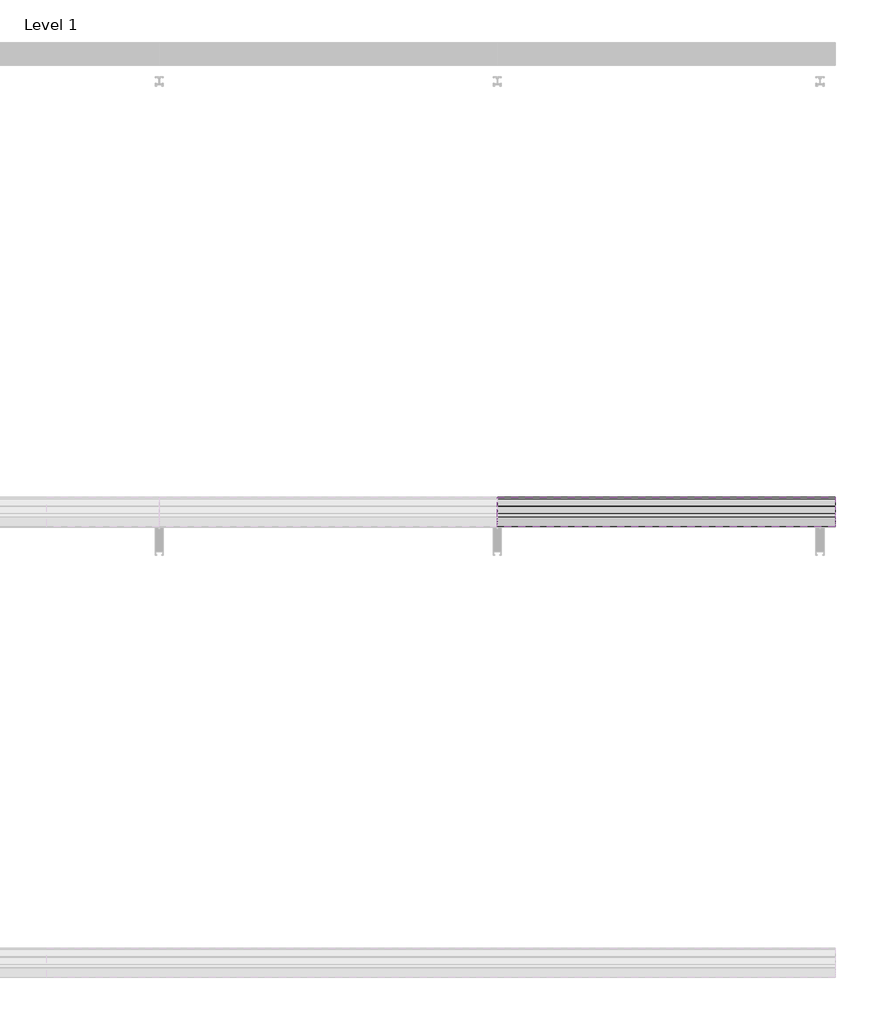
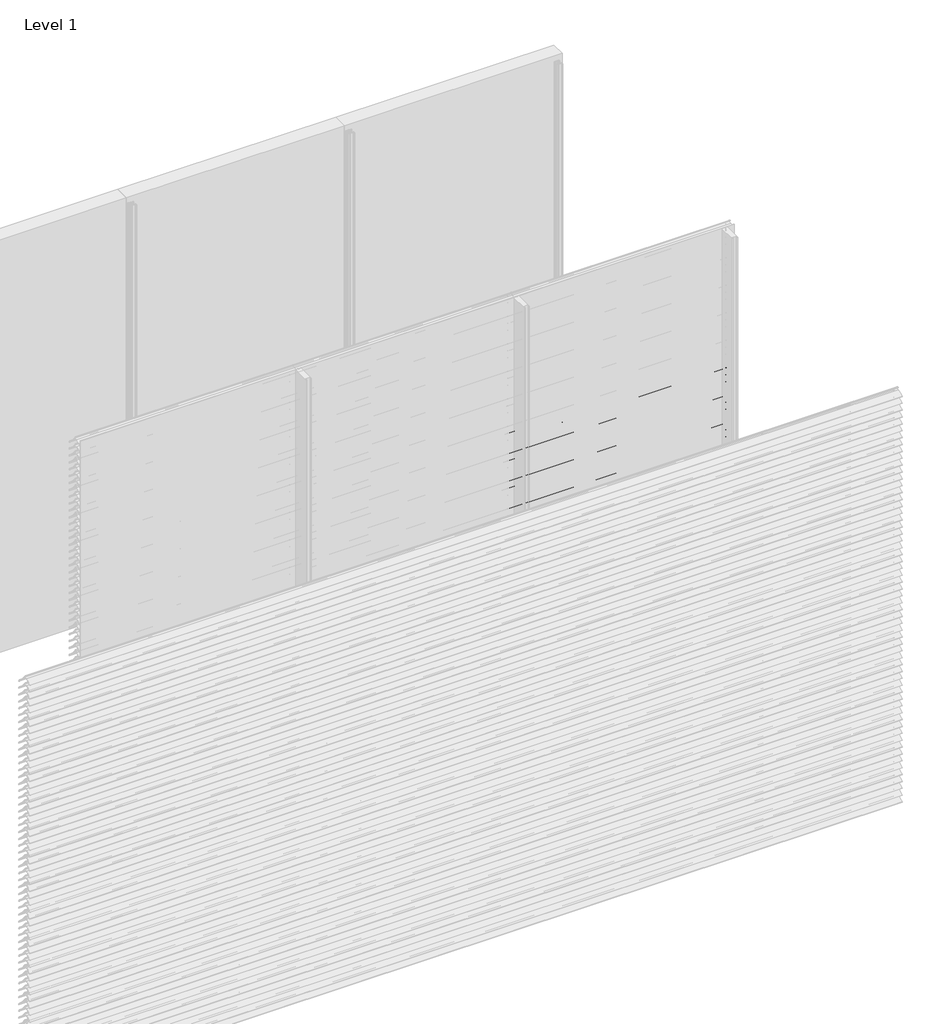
# One storey, part 35 of 173: 17 proxies.
"""IFC4 building model written with IfcOpenShell, lengths in millimetres."""

from ifc_helpers import new_model, si_unit, point, frame, frame_2d, origin, place, context, project, spatial, polyline, circle_curve, trimmed, segment, composite_curve, outline, extrude, element, save

model = new_model("IFC4")

# Units and contexts
model_context = context("Model", 3, world=origin())
ifc_project = project(units=[si_unit("LENGTHUNIT", "METRE", prefix="MILLI")], contexts=[model_context])

# Site, building, storey
site = spatial("IfcSite", under=ifc_project)
building = spatial("IfcBuilding", under=site)
storey = spatial("IfcBuildingStorey", under=building, Name="Level 1", Elevation=0.0)

# Proxies
placement = place(None, origin())
element("IfcBuildingElementProxy", 1, Name="Wall Sweeps", at=placement, inside=storey, context=model_context, shape_type="SweptSolid", body=[
    extrude(outline(composite_curve([segment(polyline([(-47998.0, 1959.1474905), (-47998.0, 1961.6227417)]), True, "CONTINUOUS"), segment(trimmed(circle_curve(frame_2d((-47951.2682172, 1916.2200208)), 65.1557103), [point((-47998.0, 1961.6227417))], [point((-47954.4014323, 1981.3003524))], False, "CARTESIAN"), True, "CONTINUOUS"), segment(polyline([(-47954.4014323, 1981.3003524), (-47934.8315836, 1981.3003524)]), True, "CONTINUOUS"), segment(trimmed(circle_curve(frame_2d((-47732.7329489, 2128.5533172)), 250.0545817), [point((-47934.8315836, 1981.3003524))], [point((-47941.4452143, 1990.8344583))], False, "CARTESIAN"), True, "CONTINUOUS"), segment(trimmed(circle_curve(frame_2d((-47953.2981792, 1985.1737835)), 13.1352966), [point((-47941.4452143, 1990.8344583))], [point((-47953.8171475, 1998.298824))], True, "CARTESIAN"), True, "CONTINUOUS"), segment(polyline([(-47953.8171475, 1998.298824), (-47953.8171475, 2000.0)]), True, "CONTINUOUS"), segment(trimmed(circle_curve(frame_2d((-47953.2981792, 1985.1737835)), 14.8352966), [point((-47953.8171475, 2000.0))], [point((-47939.9637661, 1991.6760487))], False, "CARTESIAN"), True, "CONTINUOUS"), segment(trimmed(circle_curve(frame_2d((-47732.7329489, 2128.5533172)), 248.3545817), [point((-47939.9637661, 1991.6760487))], [point((-47873.8787895, 1924.2059416))], True, "CARTESIAN"), True, "CONTINUOUS"), segment(trimmed(circle_curve(frame_2d((-47883.8147537, 1911.6649442)), 16.0), [point((-47873.8787895, 1924.2059416))], [point((-47867.8648347, 1910.4))], False, "CARTESIAN"), True, "CONTINUOUS"), segment(polyline([(-47867.8648347, 1910.4), (-47869.6712069, 1910.4)]), True, "CONTINUOUS"), segment(trimmed(circle_curve(frame_2d((-47883.8147537, 1911.6649442)), 14.2), [point((-47869.6712069, 1910.4))], [point((-47874.9518628, 1922.7594998))], True, "CARTESIAN"), True, "CONTINUOUS"), segment(trimmed(circle_curve(frame_2d((-47732.7329489, 2128.5533172)), 250.1545817), [point((-47874.9518628, 1922.7594998))], [point((-47933.7064024, 1979.6003524))], False, "CARTESIAN"), True, "CONTINUOUS"), segment(polyline([(-47933.7064024, 1979.6003524), (-47954.3602632, 1979.6003524)]), True, "CONTINUOUS"), segment(trimmed(circle_curve(frame_2d((-47951.2682172, 1916.2200208)), 63.4557103), [point((-47954.3602632, 1979.6003524))], [point((-47998.0, 1959.1474905))], True, "CARTESIAN"), True, "CONTINUOUS")], self_intersect=False)), frame((4500.0, 0.0, 0.0), z_axis=(1.0, 0.0, 0.0), x_axis=(0.0, 1.0, 0.0)), (0.0, 0.0, 1.0), 1500.0),
])
element("IfcBuildingElementProxy", 2, Name="Wall Sweeps", at=placement, inside=storey, context=model_context, shape_type="SweptSolid", body=[
    extrude(outline(composite_curve([segment(polyline([(-47998.0, 1909.1474905), (-47998.0, 1911.6227417)]), True, "CONTINUOUS"), segment(trimmed(circle_curve(frame_2d((-47951.2682172, 1866.2200208)), 65.1557103), [point((-47998.0, 1911.6227417))], [point((-47954.4014323, 1931.3003524))], False, "CARTESIAN"), True, "CONTINUOUS"), segment(polyline([(-47954.4014323, 1931.3003524), (-47934.8315836, 1931.3003524)]), True, "CONTINUOUS"), segment(trimmed(circle_curve(frame_2d((-47732.7329489, 2078.5533172)), 250.0545817), [point((-47934.8315836, 1931.3003524))], [point((-47941.4452143, 1940.8344583))], False, "CARTESIAN"), True, "CONTINUOUS"), segment(trimmed(circle_curve(frame_2d((-47953.2981792, 1935.1737835)), 13.1352966), [point((-47941.4452143, 1940.8344583))], [point((-47953.8171475, 1948.298824))], True, "CARTESIAN"), True, "CONTINUOUS"), segment(polyline([(-47953.8171475, 1948.298824), (-47953.8171475, 1950.0)]), True, "CONTINUOUS"), segment(trimmed(circle_curve(frame_2d((-47953.2981792, 1935.1737835)), 14.8352966), [point((-47953.8171475, 1950.0))], [point((-47939.9637661, 1941.6760487))], False, "CARTESIAN"), True, "CONTINUOUS"), segment(trimmed(circle_curve(frame_2d((-47732.7329489, 2078.5533172)), 248.3545817), [point((-47939.9637661, 1941.6760487))], [point((-47873.8787895, 1874.2059416))], True, "CARTESIAN"), True, "CONTINUOUS"), segment(trimmed(circle_curve(frame_2d((-47883.8147537, 1861.6649442)), 16.0), [point((-47873.8787895, 1874.2059416))], [point((-47867.8648347, 1860.4))], False, "CARTESIAN"), True, "CONTINUOUS"), segment(polyline([(-47867.8648347, 1860.4), (-47869.6712069, 1860.4)]), True, "CONTINUOUS"), segment(trimmed(circle_curve(frame_2d((-47883.8147537, 1861.6649442)), 14.2), [point((-47869.6712069, 1860.4))], [point((-47874.9518628, 1872.7594998))], True, "CARTESIAN"), True, "CONTINUOUS"), segment(trimmed(circle_curve(frame_2d((-47732.7329489, 2078.5533172)), 250.1545817), [point((-47874.9518628, 1872.7594998))], [point((-47933.7064024, 1929.6003524))], False, "CARTESIAN"), True, "CONTINUOUS"), segment(polyline([(-47933.7064024, 1929.6003524), (-47954.3602632, 1929.6003524)]), True, "CONTINUOUS"), segment(trimmed(circle_curve(frame_2d((-47951.2682172, 1866.2200208)), 63.4557103), [point((-47954.3602632, 1929.6003524))], [point((-47998.0, 1909.1474905))], True, "CARTESIAN"), True, "CONTINUOUS")], self_intersect=False)), frame((4500.0, 0.0, 0.0), z_axis=(1.0, 0.0, 0.0), x_axis=(0.0, 1.0, 0.0)), (0.0, 0.0, 1.0), 1500.0),
])
element("IfcBuildingElementProxy", 3, Name="Wall Sweeps", at=placement, inside=storey, context=model_context, shape_type="SweptSolid", body=[
    extrude(outline(composite_curve([segment(polyline([(-47998.0, 1859.1474905), (-47998.0, 1861.6227417)]), True, "CONTINUOUS"), segment(trimmed(circle_curve(frame_2d((-47951.2682172, 1816.2200208)), 65.1557103), [point((-47998.0, 1861.6227417))], [point((-47954.4014323, 1881.3003524))], False, "CARTESIAN"), True, "CONTINUOUS"), segment(polyline([(-47954.4014323, 1881.3003524), (-47934.8315836, 1881.3003524)]), True, "CONTINUOUS"), segment(trimmed(circle_curve(frame_2d((-47732.7329489, 2028.5533172)), 250.0545817), [point((-47934.8315836, 1881.3003524))], [point((-47941.4452143, 1890.8344583))], False, "CARTESIAN"), True, "CONTINUOUS"), segment(trimmed(circle_curve(frame_2d((-47953.2981792, 1885.1737835)), 13.1352966), [point((-47941.4452143, 1890.8344583))], [point((-47953.8171475, 1898.298824))], True, "CARTESIAN"), True, "CONTINUOUS"), segment(polyline([(-47953.8171475, 1898.298824), (-47953.8171475, 1900.0)]), True, "CONTINUOUS"), segment(trimmed(circle_curve(frame_2d((-47953.2981792, 1885.1737835)), 14.8352966), [point((-47953.8171475, 1900.0))], [point((-47939.9637661, 1891.6760487))], False, "CARTESIAN"), True, "CONTINUOUS"), segment(trimmed(circle_curve(frame_2d((-47732.7329489, 2028.5533172)), 248.3545817), [point((-47939.9637661, 1891.6760487))], [point((-47873.8787895, 1824.2059416))], True, "CARTESIAN"), True, "CONTINUOUS"), segment(trimmed(circle_curve(frame_2d((-47883.8147537, 1811.6649442)), 16.0), [point((-47873.8787895, 1824.2059416))], [point((-47867.8648347, 1810.4))], False, "CARTESIAN"), True, "CONTINUOUS"), segment(polyline([(-47867.8648347, 1810.4), (-47869.6712069, 1810.4)]), True, "CONTINUOUS"), segment(trimmed(circle_curve(frame_2d((-47883.8147537, 1811.6649442)), 14.2), [point((-47869.6712069, 1810.4))], [point((-47874.9518628, 1822.7594998))], True, "CARTESIAN"), True, "CONTINUOUS"), segment(trimmed(circle_curve(frame_2d((-47732.7329489, 2028.5533172)), 250.1545817), [point((-47874.9518628, 1822.7594998))], [point((-47933.7064024, 1879.6003524))], False, "CARTESIAN"), True, "CONTINUOUS"), segment(polyline([(-47933.7064024, 1879.6003524), (-47954.3602632, 1879.6003524)]), True, "CONTINUOUS"), segment(trimmed(circle_curve(frame_2d((-47951.2682172, 1816.2200208)), 63.4557103), [point((-47954.3602632, 1879.6003524))], [point((-47998.0, 1859.1474905))], True, "CARTESIAN"), True, "CONTINUOUS")], self_intersect=False)), frame((4500.0, 0.0, 0.0), z_axis=(1.0, 0.0, 0.0), x_axis=(0.0, 1.0, 0.0)), (0.0, 0.0, 1.0), 1500.0),
])
element("IfcBuildingElementProxy", 4, Name="Wall Sweeps", at=placement, inside=storey, context=model_context, shape_type="SweptSolid", body=[
    extrude(outline(composite_curve([segment(polyline([(-47998.0, 1809.1474905), (-47998.0, 1811.6227417)]), True, "CONTINUOUS"), segment(trimmed(circle_curve(frame_2d((-47951.2682172, 1766.2200208)), 65.1557103), [point((-47998.0, 1811.6227417))], [point((-47954.4014323, 1831.3003524))], False, "CARTESIAN"), True, "CONTINUOUS"), segment(polyline([(-47954.4014323, 1831.3003524), (-47934.8315836, 1831.3003524)]), True, "CONTINUOUS"), segment(trimmed(circle_curve(frame_2d((-47732.7329489, 1978.5533172)), 250.0545817), [point((-47934.8315836, 1831.3003524))], [point((-47941.4452143, 1840.8344583))], False, "CARTESIAN"), True, "CONTINUOUS"), segment(trimmed(circle_curve(frame_2d((-47953.2981792, 1835.1737835)), 13.1352966), [point((-47941.4452143, 1840.8344583))], [point((-47953.8171475, 1848.298824))], True, "CARTESIAN"), True, "CONTINUOUS"), segment(polyline([(-47953.8171475, 1848.298824), (-47953.8171475, 1850.0)]), True, "CONTINUOUS"), segment(trimmed(circle_curve(frame_2d((-47953.2981792, 1835.1737835)), 14.8352966), [point((-47953.8171475, 1850.0))], [point((-47939.9637661, 1841.6760487))], False, "CARTESIAN"), True, "CONTINUOUS"), segment(trimmed(circle_curve(frame_2d((-47732.7329489, 1978.5533172)), 248.3545817), [point((-47939.9637661, 1841.6760487))], [point((-47873.8787895, 1774.2059416))], True, "CARTESIAN"), True, "CONTINUOUS"), segment(trimmed(circle_curve(frame_2d((-47883.8147537, 1761.6649442)), 16.0), [point((-47873.8787895, 1774.2059416))], [point((-47867.8648347, 1760.4))], False, "CARTESIAN"), True, "CONTINUOUS"), segment(polyline([(-47867.8648347, 1760.4), (-47869.6712069, 1760.4)]), True, "CONTINUOUS"), segment(trimmed(circle_curve(frame_2d((-47883.8147537, 1761.6649442)), 14.2), [point((-47869.6712069, 1760.4))], [point((-47874.9518628, 1772.7594998))], True, "CARTESIAN"), True, "CONTINUOUS"), segment(trimmed(circle_curve(frame_2d((-47732.7329489, 1978.5533172)), 250.1545817), [point((-47874.9518628, 1772.7594998))], [point((-47933.7064024, 1829.6003524))], False, "CARTESIAN"), True, "CONTINUOUS"), segment(polyline([(-47933.7064024, 1829.6003524), (-47954.3602632, 1829.6003524)]), True, "CONTINUOUS"), segment(trimmed(circle_curve(frame_2d((-47951.2682172, 1766.2200208)), 63.4557103), [point((-47954.3602632, 1829.6003524))], [point((-47998.0, 1809.1474905))], True, "CARTESIAN"), True, "CONTINUOUS")], self_intersect=False)), frame((4500.0, 0.0, 0.0), z_axis=(1.0, 0.0, 0.0), x_axis=(0.0, 1.0, 0.0)), (0.0, 0.0, 1.0), 1500.0),
])
element("IfcBuildingElementProxy", 5, Name="Wall Sweeps", at=placement, inside=storey, context=model_context, shape_type="SweptSolid", body=[
    extrude(outline(composite_curve([segment(polyline([(-47998.0, 1759.1474905), (-47998.0, 1761.6227417)]), True, "CONTINUOUS"), segment(trimmed(circle_curve(frame_2d((-47951.2682172, 1716.2200208)), 65.1557103), [point((-47998.0, 1761.6227417))], [point((-47954.4014323, 1781.3003524))], False, "CARTESIAN"), True, "CONTINUOUS"), segment(polyline([(-47954.4014323, 1781.3003524), (-47934.8315836, 1781.3003524)]), True, "CONTINUOUS"), segment(trimmed(circle_curve(frame_2d((-47732.7329489, 1928.5533172)), 250.0545817), [point((-47934.8315836, 1781.3003524))], [point((-47941.4452143, 1790.8344583))], False, "CARTESIAN"), True, "CONTINUOUS"), segment(trimmed(circle_curve(frame_2d((-47953.2981792, 1785.1737835)), 13.1352966), [point((-47941.4452143, 1790.8344583))], [point((-47953.8171475, 1798.298824))], True, "CARTESIAN"), True, "CONTINUOUS"), segment(polyline([(-47953.8171475, 1798.298824), (-47953.8171475, 1800.0)]), True, "CONTINUOUS"), segment(trimmed(circle_curve(frame_2d((-47953.2981792, 1785.1737835)), 14.8352966), [point((-47953.8171475, 1800.0))], [point((-47939.9637661, 1791.6760487))], False, "CARTESIAN"), True, "CONTINUOUS"), segment(trimmed(circle_curve(frame_2d((-47732.7329489, 1928.5533172)), 248.3545817), [point((-47939.9637661, 1791.6760487))], [point((-47873.8787895, 1724.2059416))], True, "CARTESIAN"), True, "CONTINUOUS"), segment(trimmed(circle_curve(frame_2d((-47883.8147537, 1711.6649442)), 16.0), [point((-47873.8787895, 1724.2059416))], [point((-47867.8648347, 1710.4))], False, "CARTESIAN"), True, "CONTINUOUS"), segment(polyline([(-47867.8648347, 1710.4), (-47869.6712069, 1710.4)]), True, "CONTINUOUS"), segment(trimmed(circle_curve(frame_2d((-47883.8147537, 1711.6649442)), 14.2), [point((-47869.6712069, 1710.4))], [point((-47874.9518628, 1722.7594998))], True, "CARTESIAN"), True, "CONTINUOUS"), segment(trimmed(circle_curve(frame_2d((-47732.7329489, 1928.5533172)), 250.1545817), [point((-47874.9518628, 1722.7594998))], [point((-47933.7064024, 1779.6003524))], False, "CARTESIAN"), True, "CONTINUOUS"), segment(polyline([(-47933.7064024, 1779.6003524), (-47954.3602632, 1779.6003524)]), True, "CONTINUOUS"), segment(trimmed(circle_curve(frame_2d((-47951.2682172, 1716.2200208)), 63.4557103), [point((-47954.3602632, 1779.6003524))], [point((-47998.0, 1759.1474905))], True, "CARTESIAN"), True, "CONTINUOUS")], self_intersect=False)), frame((4500.0, 0.0, 0.0), z_axis=(1.0, 0.0, 0.0), x_axis=(0.0, 1.0, 0.0)), (0.0, 0.0, 1.0), 1500.0),
])
element("IfcBuildingElementProxy", 6, Name="Wall Sweeps", at=placement, inside=storey, context=model_context, shape_type="SweptSolid", body=[
    extrude(outline(composite_curve([segment(polyline([(-47998.0, 1709.1474905), (-47998.0, 1711.6227417)]), True, "CONTINUOUS"), segment(trimmed(circle_curve(frame_2d((-47951.2682172, 1666.2200208)), 65.1557103), [point((-47998.0, 1711.6227417))], [point((-47954.4014323, 1731.3003524))], False, "CARTESIAN"), True, "CONTINUOUS"), segment(polyline([(-47954.4014323, 1731.3003524), (-47934.8315836, 1731.3003524)]), True, "CONTINUOUS"), segment(trimmed(circle_curve(frame_2d((-47732.7329489, 1878.5533172)), 250.0545817), [point((-47934.8315836, 1731.3003524))], [point((-47941.4452143, 1740.8344583))], False, "CARTESIAN"), True, "CONTINUOUS"), segment(trimmed(circle_curve(frame_2d((-47953.2981792, 1735.1737835)), 13.1352966), [point((-47941.4452143, 1740.8344583))], [point((-47953.8171475, 1748.298824))], True, "CARTESIAN"), True, "CONTINUOUS"), segment(polyline([(-47953.8171475, 1748.298824), (-47953.8171475, 1750.0)]), True, "CONTINUOUS"), segment(trimmed(circle_curve(frame_2d((-47953.2981792, 1735.1737835)), 14.8352966), [point((-47953.8171475, 1750.0))], [point((-47939.9637661, 1741.6760487))], False, "CARTESIAN"), True, "CONTINUOUS"), segment(trimmed(circle_curve(frame_2d((-47732.7329489, 1878.5533172)), 248.3545817), [point((-47939.9637661, 1741.6760487))], [point((-47873.8787895, 1674.2059416))], True, "CARTESIAN"), True, "CONTINUOUS"), segment(trimmed(circle_curve(frame_2d((-47883.8147537, 1661.6649442)), 16.0), [point((-47873.8787895, 1674.2059416))], [point((-47867.8648347, 1660.4))], False, "CARTESIAN"), True, "CONTINUOUS"), segment(polyline([(-47867.8648347, 1660.4), (-47869.6712069, 1660.4)]), True, "CONTINUOUS"), segment(trimmed(circle_curve(frame_2d((-47883.8147537, 1661.6649442)), 14.2), [point((-47869.6712069, 1660.4))], [point((-47874.9518628, 1672.7594998))], True, "CARTESIAN"), True, "CONTINUOUS"), segment(trimmed(circle_curve(frame_2d((-47732.7329489, 1878.5533172)), 250.1545817), [point((-47874.9518628, 1672.7594998))], [point((-47933.7064024, 1729.6003524))], False, "CARTESIAN"), True, "CONTINUOUS"), segment(polyline([(-47933.7064024, 1729.6003524), (-47954.3602632, 1729.6003524)]), True, "CONTINUOUS"), segment(trimmed(circle_curve(frame_2d((-47951.2682172, 1666.2200208)), 63.4557103), [point((-47954.3602632, 1729.6003524))], [point((-47998.0, 1709.1474905))], True, "CARTESIAN"), True, "CONTINUOUS")], self_intersect=False)), frame((4500.0, 0.0, 0.0), z_axis=(1.0, 0.0, 0.0), x_axis=(0.0, 1.0, 0.0)), (0.0, 0.0, 1.0), 1500.0),
])
element("IfcBuildingElementProxy", 7, Name="Wall Sweeps", at=placement, inside=storey, context=model_context, shape_type="SweptSolid", body=[
    extrude(outline(composite_curve([segment(polyline([(-47998.0, 1659.1474905), (-47998.0, 1661.6227417)]), True, "CONTINUOUS"), segment(trimmed(circle_curve(frame_2d((-47951.2682172, 1616.2200208)), 65.1557103), [point((-47998.0, 1661.6227417))], [point((-47954.4014323, 1681.3003524))], False, "CARTESIAN"), True, "CONTINUOUS"), segment(polyline([(-47954.4014323, 1681.3003524), (-47934.8315836, 1681.3003524)]), True, "CONTINUOUS"), segment(trimmed(circle_curve(frame_2d((-47732.7329489, 1828.5533172)), 250.0545817), [point((-47934.8315836, 1681.3003524))], [point((-47941.4452143, 1690.8344583))], False, "CARTESIAN"), True, "CONTINUOUS"), segment(trimmed(circle_curve(frame_2d((-47953.2981792, 1685.1737835)), 13.1352966), [point((-47941.4452143, 1690.8344583))], [point((-47953.8171475, 1698.298824))], True, "CARTESIAN"), True, "CONTINUOUS"), segment(polyline([(-47953.8171475, 1698.298824), (-47953.8171475, 1700.0)]), True, "CONTINUOUS"), segment(trimmed(circle_curve(frame_2d((-47953.2981792, 1685.1737835)), 14.8352966), [point((-47953.8171475, 1700.0))], [point((-47939.9637661, 1691.6760487))], False, "CARTESIAN"), True, "CONTINUOUS"), segment(trimmed(circle_curve(frame_2d((-47732.7329489, 1828.5533172)), 248.3545817), [point((-47939.9637661, 1691.6760487))], [point((-47873.8787895, 1624.2059416))], True, "CARTESIAN"), True, "CONTINUOUS"), segment(trimmed(circle_curve(frame_2d((-47883.8147537, 1611.6649442)), 16.0), [point((-47873.8787895, 1624.2059416))], [point((-47867.8648347, 1610.4))], False, "CARTESIAN"), True, "CONTINUOUS"), segment(polyline([(-47867.8648347, 1610.4), (-47869.6712069, 1610.4)]), True, "CONTINUOUS"), segment(trimmed(circle_curve(frame_2d((-47883.8147537, 1611.6649442)), 14.2), [point((-47869.6712069, 1610.4))], [point((-47874.9518628, 1622.7594998))], True, "CARTESIAN"), True, "CONTINUOUS"), segment(trimmed(circle_curve(frame_2d((-47732.7329489, 1828.5533172)), 250.1545817), [point((-47874.9518628, 1622.7594998))], [point((-47933.7064024, 1679.6003524))], False, "CARTESIAN"), True, "CONTINUOUS"), segment(polyline([(-47933.7064024, 1679.6003524), (-47954.3602632, 1679.6003524)]), True, "CONTINUOUS"), segment(trimmed(circle_curve(frame_2d((-47951.2682172, 1616.2200208)), 63.4557103), [point((-47954.3602632, 1679.6003524))], [point((-47998.0, 1659.1474905))], True, "CARTESIAN"), True, "CONTINUOUS")], self_intersect=False)), frame((4500.0, 0.0, 0.0), z_axis=(1.0, 0.0, 0.0), x_axis=(0.0, 1.0, 0.0)), (0.0, 0.0, 1.0), 1500.0),
])
element("IfcBuildingElementProxy", 8, Name="Wall Sweeps", at=placement, inside=storey, context=model_context, shape_type="SweptSolid", body=[
    extrude(outline(composite_curve([segment(polyline([(-47998.0, 1609.1474905), (-47998.0, 1611.6227417)]), True, "CONTINUOUS"), segment(trimmed(circle_curve(frame_2d((-47951.2682172, 1566.2200208)), 65.1557103), [point((-47998.0, 1611.6227417))], [point((-47954.4014323, 1631.3003524))], False, "CARTESIAN"), True, "CONTINUOUS"), segment(polyline([(-47954.4014323, 1631.3003524), (-47934.8315836, 1631.3003524)]), True, "CONTINUOUS"), segment(trimmed(circle_curve(frame_2d((-47732.7329489, 1778.5533172)), 250.0545817), [point((-47934.8315836, 1631.3003524))], [point((-47941.4452143, 1640.8344583))], False, "CARTESIAN"), True, "CONTINUOUS"), segment(trimmed(circle_curve(frame_2d((-47953.2981792, 1635.1737835)), 13.1352966), [point((-47941.4452143, 1640.8344583))], [point((-47953.8171475, 1648.298824))], True, "CARTESIAN"), True, "CONTINUOUS"), segment(polyline([(-47953.8171475, 1648.298824), (-47953.8171475, 1650.0)]), True, "CONTINUOUS"), segment(trimmed(circle_curve(frame_2d((-47953.2981792, 1635.1737835)), 14.8352966), [point((-47953.8171475, 1650.0))], [point((-47939.9637661, 1641.6760487))], False, "CARTESIAN"), True, "CONTINUOUS"), segment(trimmed(circle_curve(frame_2d((-47732.7329489, 1778.5533172)), 248.3545817), [point((-47939.9637661, 1641.6760487))], [point((-47873.8787895, 1574.2059416))], True, "CARTESIAN"), True, "CONTINUOUS"), segment(trimmed(circle_curve(frame_2d((-47883.8147537, 1561.6649442)), 16.0), [point((-47873.8787895, 1574.2059416))], [point((-47867.8648347, 1560.4))], False, "CARTESIAN"), True, "CONTINUOUS"), segment(polyline([(-47867.8648347, 1560.4), (-47869.6712069, 1560.4)]), True, "CONTINUOUS"), segment(trimmed(circle_curve(frame_2d((-47883.8147537, 1561.6649442)), 14.2), [point((-47869.6712069, 1560.4))], [point((-47874.9518628, 1572.7594998))], True, "CARTESIAN"), True, "CONTINUOUS"), segment(trimmed(circle_curve(frame_2d((-47732.7329489, 1778.5533172)), 250.1545817), [point((-47874.9518628, 1572.7594998))], [point((-47933.7064024, 1629.6003524))], False, "CARTESIAN"), True, "CONTINUOUS"), segment(polyline([(-47933.7064024, 1629.6003524), (-47954.3602632, 1629.6003524)]), True, "CONTINUOUS"), segment(trimmed(circle_curve(frame_2d((-47951.2682172, 1566.2200208)), 63.4557103), [point((-47954.3602632, 1629.6003524))], [point((-47998.0, 1609.1474905))], True, "CARTESIAN"), True, "CONTINUOUS")], self_intersect=False)), frame((4500.0, 0.0, 0.0), z_axis=(1.0, 0.0, 0.0), x_axis=(0.0, 1.0, 0.0)), (0.0, 0.0, 1.0), 1500.0),
])
element("IfcBuildingElementProxy", 9, Name="Wall Sweeps", at=placement, inside=storey, context=model_context, shape_type="SweptSolid", body=[
    extrude(outline(composite_curve([segment(polyline([(-47998.0, 1559.1474905), (-47998.0, 1561.6227417)]), True, "CONTINUOUS"), segment(trimmed(circle_curve(frame_2d((-47951.2682172, 1516.2200208)), 65.1557103), [point((-47998.0, 1561.6227417))], [point((-47954.4014323, 1581.3003524))], False, "CARTESIAN"), True, "CONTINUOUS"), segment(polyline([(-47954.4014323, 1581.3003524), (-47934.8315836, 1581.3003524)]), True, "CONTINUOUS"), segment(trimmed(circle_curve(frame_2d((-47732.7329489, 1728.5533172)), 250.0545817), [point((-47934.8315836, 1581.3003524))], [point((-47941.4452143, 1590.8344583))], False, "CARTESIAN"), True, "CONTINUOUS"), segment(trimmed(circle_curve(frame_2d((-47953.2981792, 1585.1737835)), 13.1352966), [point((-47941.4452143, 1590.8344583))], [point((-47953.8171475, 1598.298824))], True, "CARTESIAN"), True, "CONTINUOUS"), segment(polyline([(-47953.8171475, 1598.298824), (-47953.8171475, 1600.0)]), True, "CONTINUOUS"), segment(trimmed(circle_curve(frame_2d((-47953.2981792, 1585.1737835)), 14.8352966), [point((-47953.8171475, 1600.0))], [point((-47939.9637661, 1591.6760487))], False, "CARTESIAN"), True, "CONTINUOUS"), segment(trimmed(circle_curve(frame_2d((-47732.7329489, 1728.5533172)), 248.3545817), [point((-47939.9637661, 1591.6760487))], [point((-47873.8787895, 1524.2059416))], True, "CARTESIAN"), True, "CONTINUOUS"), segment(trimmed(circle_curve(frame_2d((-47883.8147537, 1511.6649442)), 16.0), [point((-47873.8787895, 1524.2059416))], [point((-47867.8648347, 1510.4))], False, "CARTESIAN"), True, "CONTINUOUS"), segment(polyline([(-47867.8648347, 1510.4), (-47869.6712069, 1510.4)]), True, "CONTINUOUS"), segment(trimmed(circle_curve(frame_2d((-47883.8147537, 1511.6649442)), 14.2), [point((-47869.6712069, 1510.4))], [point((-47874.9518628, 1522.7594998))], True, "CARTESIAN"), True, "CONTINUOUS"), segment(trimmed(circle_curve(frame_2d((-47732.7329489, 1728.5533172)), 250.1545817), [point((-47874.9518628, 1522.7594998))], [point((-47933.7064024, 1579.6003524))], False, "CARTESIAN"), True, "CONTINUOUS"), segment(polyline([(-47933.7064024, 1579.6003524), (-47954.3602632, 1579.6003524)]), True, "CONTINUOUS"), segment(trimmed(circle_curve(frame_2d((-47951.2682172, 1516.2200208)), 63.4557103), [point((-47954.3602632, 1579.6003524))], [point((-47998.0, 1559.1474905))], True, "CARTESIAN"), True, "CONTINUOUS")], self_intersect=False)), frame((4500.0, 0.0, 0.0), z_axis=(1.0, 0.0, 0.0), x_axis=(0.0, 1.0, 0.0)), (0.0, 0.0, 1.0), 1500.0),
])
element("IfcBuildingElementProxy", 10, Name="Wall Sweeps", at=placement, inside=storey, context=model_context, shape_type="SweptSolid", body=[
    extrude(outline(composite_curve([segment(polyline([(-47998.0, 1509.1474905), (-47998.0, 1511.6227417)]), True, "CONTINUOUS"), segment(trimmed(circle_curve(frame_2d((-47951.2682172, 1466.2200208)), 65.1557103), [point((-47998.0, 1511.6227417))], [point((-47954.4014323, 1531.3003524))], False, "CARTESIAN"), True, "CONTINUOUS"), segment(polyline([(-47954.4014323, 1531.3003524), (-47934.8315836, 1531.3003524)]), True, "CONTINUOUS"), segment(trimmed(circle_curve(frame_2d((-47732.7329489, 1678.5533172)), 250.0545817), [point((-47934.8315836, 1531.3003524))], [point((-47941.4452143, 1540.8344583))], False, "CARTESIAN"), True, "CONTINUOUS"), segment(trimmed(circle_curve(frame_2d((-47953.2981792, 1535.1737835)), 13.1352966), [point((-47941.4452143, 1540.8344583))], [point((-47953.8171475, 1548.298824))], True, "CARTESIAN"), True, "CONTINUOUS"), segment(polyline([(-47953.8171475, 1548.298824), (-47953.8171475, 1550.0)]), True, "CONTINUOUS"), segment(trimmed(circle_curve(frame_2d((-47953.2981792, 1535.1737835)), 14.8352966), [point((-47953.8171475, 1550.0))], [point((-47939.9637661, 1541.6760487))], False, "CARTESIAN"), True, "CONTINUOUS"), segment(trimmed(circle_curve(frame_2d((-47732.7329489, 1678.5533172)), 248.3545817), [point((-47939.9637661, 1541.6760487))], [point((-47873.8787895, 1474.2059416))], True, "CARTESIAN"), True, "CONTINUOUS"), segment(trimmed(circle_curve(frame_2d((-47883.8147537, 1461.6649442)), 16.0), [point((-47873.8787895, 1474.2059416))], [point((-47867.8648347, 1460.4))], False, "CARTESIAN"), True, "CONTINUOUS"), segment(polyline([(-47867.8648347, 1460.4), (-47869.6712069, 1460.4)]), True, "CONTINUOUS"), segment(trimmed(circle_curve(frame_2d((-47883.8147537, 1461.6649442)), 14.2), [point((-47869.6712069, 1460.4))], [point((-47874.9518628, 1472.7594998))], True, "CARTESIAN"), True, "CONTINUOUS"), segment(trimmed(circle_curve(frame_2d((-47732.7329489, 1678.5533172)), 250.1545817), [point((-47874.9518628, 1472.7594998))], [point((-47933.7064024, 1529.6003524))], False, "CARTESIAN"), True, "CONTINUOUS"), segment(polyline([(-47933.7064024, 1529.6003524), (-47954.3602632, 1529.6003524)]), True, "CONTINUOUS"), segment(trimmed(circle_curve(frame_2d((-47951.2682172, 1466.2200208)), 63.4557103), [point((-47954.3602632, 1529.6003524))], [point((-47998.0, 1509.1474905))], True, "CARTESIAN"), True, "CONTINUOUS")], self_intersect=False)), frame((4500.0, 0.0, 0.0), z_axis=(1.0, 0.0, 0.0), x_axis=(0.0, 1.0, 0.0)), (0.0, 0.0, 1.0), 1500.0),
])
element("IfcBuildingElementProxy", 11, Name="Wall Sweeps", at=placement, inside=storey, context=model_context, shape_type="SweptSolid", body=[
    extrude(outline(composite_curve([segment(polyline([(-47998.0, 1459.1474905), (-47998.0, 1461.6227417)]), True, "CONTINUOUS"), segment(trimmed(circle_curve(frame_2d((-47951.2682172, 1416.2200208)), 65.1557103), [point((-47998.0, 1461.6227417))], [point((-47954.4014323, 1481.3003524))], False, "CARTESIAN"), True, "CONTINUOUS"), segment(polyline([(-47954.4014323, 1481.3003524), (-47934.8315836, 1481.3003524)]), True, "CONTINUOUS"), segment(trimmed(circle_curve(frame_2d((-47732.7329489, 1628.5533172)), 250.0545817), [point((-47934.8315836, 1481.3003524))], [point((-47941.4452143, 1490.8344583))], False, "CARTESIAN"), True, "CONTINUOUS"), segment(trimmed(circle_curve(frame_2d((-47953.2981792, 1485.1737835)), 13.1352966), [point((-47941.4452143, 1490.8344583))], [point((-47953.8171475, 1498.298824))], True, "CARTESIAN"), True, "CONTINUOUS"), segment(polyline([(-47953.8171475, 1498.298824), (-47953.8171475, 1500.0)]), True, "CONTINUOUS"), segment(trimmed(circle_curve(frame_2d((-47953.2981792, 1485.1737835)), 14.8352966), [point((-47953.8171475, 1500.0))], [point((-47939.9637661, 1491.6760487))], False, "CARTESIAN"), True, "CONTINUOUS"), segment(trimmed(circle_curve(frame_2d((-47732.7329489, 1628.5533172)), 248.3545817), [point((-47939.9637661, 1491.6760487))], [point((-47873.8787895, 1424.2059416))], True, "CARTESIAN"), True, "CONTINUOUS"), segment(trimmed(circle_curve(frame_2d((-47883.8147537, 1411.6649442)), 16.0), [point((-47873.8787895, 1424.2059416))], [point((-47867.8648347, 1410.4))], False, "CARTESIAN"), True, "CONTINUOUS"), segment(polyline([(-47867.8648347, 1410.4), (-47869.6712069, 1410.4)]), True, "CONTINUOUS"), segment(trimmed(circle_curve(frame_2d((-47883.8147537, 1411.6649442)), 14.2), [point((-47869.6712069, 1410.4))], [point((-47874.9518628, 1422.7594998))], True, "CARTESIAN"), True, "CONTINUOUS"), segment(trimmed(circle_curve(frame_2d((-47732.7329489, 1628.5533172)), 250.1545817), [point((-47874.9518628, 1422.7594998))], [point((-47933.7064024, 1479.6003524))], False, "CARTESIAN"), True, "CONTINUOUS"), segment(polyline([(-47933.7064024, 1479.6003524), (-47954.3602632, 1479.6003524)]), True, "CONTINUOUS"), segment(trimmed(circle_curve(frame_2d((-47951.2682172, 1416.2200208)), 63.4557103), [point((-47954.3602632, 1479.6003524))], [point((-47998.0, 1459.1474905))], True, "CARTESIAN"), True, "CONTINUOUS")], self_intersect=False)), frame((4500.0, 0.0, 0.0), z_axis=(1.0, 0.0, 0.0), x_axis=(0.0, 1.0, 0.0)), (0.0, 0.0, 1.0), 1500.0),
])
element("IfcBuildingElementProxy", 12, Name="Wall Sweeps", at=placement, inside=storey, context=model_context, shape_type="SweptSolid", body=[
    extrude(outline(composite_curve([segment(polyline([(-47998.0, 1409.1474905), (-47998.0, 1411.6227417)]), True, "CONTINUOUS"), segment(trimmed(circle_curve(frame_2d((-47951.2682172, 1366.2200208)), 65.1557103), [point((-47998.0, 1411.6227417))], [point((-47954.4014323, 1431.3003524))], False, "CARTESIAN"), True, "CONTINUOUS"), segment(polyline([(-47954.4014323, 1431.3003524), (-47934.8315836, 1431.3003524)]), True, "CONTINUOUS"), segment(trimmed(circle_curve(frame_2d((-47732.7329489, 1578.5533172)), 250.0545817), [point((-47934.8315836, 1431.3003524))], [point((-47941.4452143, 1440.8344583))], False, "CARTESIAN"), True, "CONTINUOUS"), segment(trimmed(circle_curve(frame_2d((-47953.2981792, 1435.1737835)), 13.1352966), [point((-47941.4452143, 1440.8344583))], [point((-47953.8171475, 1448.298824))], True, "CARTESIAN"), True, "CONTINUOUS"), segment(polyline([(-47953.8171475, 1448.298824), (-47953.8171475, 1450.0)]), True, "CONTINUOUS"), segment(trimmed(circle_curve(frame_2d((-47953.2981792, 1435.1737835)), 14.8352966), [point((-47953.8171475, 1450.0))], [point((-47939.9637661, 1441.6760487))], False, "CARTESIAN"), True, "CONTINUOUS"), segment(trimmed(circle_curve(frame_2d((-47732.7329489, 1578.5533172)), 248.3545817), [point((-47939.9637661, 1441.6760487))], [point((-47873.8787895, 1374.2059416))], True, "CARTESIAN"), True, "CONTINUOUS"), segment(trimmed(circle_curve(frame_2d((-47883.8147537, 1361.6649442)), 16.0), [point((-47873.8787895, 1374.2059416))], [point((-47867.8648347, 1360.4))], False, "CARTESIAN"), True, "CONTINUOUS"), segment(polyline([(-47867.8648347, 1360.4), (-47869.6712069, 1360.4)]), True, "CONTINUOUS"), segment(trimmed(circle_curve(frame_2d((-47883.8147537, 1361.6649442)), 14.2), [point((-47869.6712069, 1360.4))], [point((-47874.9518628, 1372.7594998))], True, "CARTESIAN"), True, "CONTINUOUS"), segment(trimmed(circle_curve(frame_2d((-47732.7329489, 1578.5533172)), 250.1545817), [point((-47874.9518628, 1372.7594998))], [point((-47933.7064024, 1429.6003524))], False, "CARTESIAN"), True, "CONTINUOUS"), segment(polyline([(-47933.7064024, 1429.6003524), (-47954.3602632, 1429.6003524)]), True, "CONTINUOUS"), segment(trimmed(circle_curve(frame_2d((-47951.2682172, 1366.2200208)), 63.4557103), [point((-47954.3602632, 1429.6003524))], [point((-47998.0, 1409.1474905))], True, "CARTESIAN"), True, "CONTINUOUS")], self_intersect=False)), frame((4500.0, 0.0, 0.0), z_axis=(1.0, 0.0, 0.0), x_axis=(0.0, 1.0, 0.0)), (0.0, 0.0, 1.0), 1500.0),
])
element("IfcBuildingElementProxy", 13, Name="Wall Sweeps", at=placement, inside=storey, context=model_context, shape_type="SweptSolid", body=[
    extrude(outline(composite_curve([segment(polyline([(-47998.0, 1359.1474905), (-47998.0, 1361.6227417)]), True, "CONTINUOUS"), segment(trimmed(circle_curve(frame_2d((-47951.2682172, 1316.2200208)), 65.1557103), [point((-47998.0, 1361.6227417))], [point((-47954.4014323, 1381.3003524))], False, "CARTESIAN"), True, "CONTINUOUS"), segment(polyline([(-47954.4014323, 1381.3003524), (-47934.8315836, 1381.3003524)]), True, "CONTINUOUS"), segment(trimmed(circle_curve(frame_2d((-47732.7329489, 1528.5533172)), 250.0545817), [point((-47934.8315836, 1381.3003524))], [point((-47941.4452143, 1390.8344583))], False, "CARTESIAN"), True, "CONTINUOUS"), segment(trimmed(circle_curve(frame_2d((-47953.2981792, 1385.1737835)), 13.1352966), [point((-47941.4452143, 1390.8344583))], [point((-47953.8171475, 1398.298824))], True, "CARTESIAN"), True, "CONTINUOUS"), segment(polyline([(-47953.8171475, 1398.298824), (-47953.8171475, 1400.0)]), True, "CONTINUOUS"), segment(trimmed(circle_curve(frame_2d((-47953.2981792, 1385.1737835)), 14.8352966), [point((-47953.8171475, 1400.0))], [point((-47939.9637661, 1391.6760487))], False, "CARTESIAN"), True, "CONTINUOUS"), segment(trimmed(circle_curve(frame_2d((-47732.7329489, 1528.5533172)), 248.3545817), [point((-47939.9637661, 1391.6760487))], [point((-47873.8787895, 1324.2059416))], True, "CARTESIAN"), True, "CONTINUOUS"), segment(trimmed(circle_curve(frame_2d((-47883.8147537, 1311.6649442)), 16.0), [point((-47873.8787895, 1324.2059416))], [point((-47867.8648347, 1310.4))], False, "CARTESIAN"), True, "CONTINUOUS"), segment(polyline([(-47867.8648347, 1310.4), (-47869.6712069, 1310.4)]), True, "CONTINUOUS"), segment(trimmed(circle_curve(frame_2d((-47883.8147537, 1311.6649442)), 14.2), [point((-47869.6712069, 1310.4))], [point((-47874.9518628, 1322.7594998))], True, "CARTESIAN"), True, "CONTINUOUS"), segment(trimmed(circle_curve(frame_2d((-47732.7329489, 1528.5533172)), 250.1545817), [point((-47874.9518628, 1322.7594998))], [point((-47933.7064024, 1379.6003524))], False, "CARTESIAN"), True, "CONTINUOUS"), segment(polyline([(-47933.7064024, 1379.6003524), (-47954.3602632, 1379.6003524)]), True, "CONTINUOUS"), segment(trimmed(circle_curve(frame_2d((-47951.2682172, 1316.2200208)), 63.4557103), [point((-47954.3602632, 1379.6003524))], [point((-47998.0, 1359.1474905))], True, "CARTESIAN"), True, "CONTINUOUS")], self_intersect=False)), frame((4500.0, 0.0, 0.0), z_axis=(1.0, 0.0, 0.0), x_axis=(0.0, 1.0, 0.0)), (0.0, 0.0, 1.0), 1500.0),
])
element("IfcBuildingElementProxy", 14, Name="Wall Sweeps", at=placement, inside=storey, context=model_context, shape_type="SweptSolid", body=[
    extrude(outline(composite_curve([segment(polyline([(-47998.0, 1309.1474905), (-47998.0, 1311.6227417)]), True, "CONTINUOUS"), segment(trimmed(circle_curve(frame_2d((-47951.2682172, 1266.2200208)), 65.1557103), [point((-47998.0, 1311.6227417))], [point((-47954.4014323, 1331.3003524))], False, "CARTESIAN"), True, "CONTINUOUS"), segment(polyline([(-47954.4014323, 1331.3003524), (-47934.8315836, 1331.3003524)]), True, "CONTINUOUS"), segment(trimmed(circle_curve(frame_2d((-47732.7329489, 1478.5533172)), 250.0545817), [point((-47934.8315836, 1331.3003524))], [point((-47941.4452143, 1340.8344583))], False, "CARTESIAN"), True, "CONTINUOUS"), segment(trimmed(circle_curve(frame_2d((-47953.2981792, 1335.1737835)), 13.1352966), [point((-47941.4452143, 1340.8344583))], [point((-47953.8171475, 1348.298824))], True, "CARTESIAN"), True, "CONTINUOUS"), segment(polyline([(-47953.8171475, 1348.298824), (-47953.8171475, 1350.0)]), True, "CONTINUOUS"), segment(trimmed(circle_curve(frame_2d((-47953.2981792, 1335.1737835)), 14.8352966), [point((-47953.8171475, 1350.0))], [point((-47939.9637661, 1341.6760487))], False, "CARTESIAN"), True, "CONTINUOUS"), segment(trimmed(circle_curve(frame_2d((-47732.7329489, 1478.5533172)), 248.3545817), [point((-47939.9637661, 1341.6760487))], [point((-47873.8787895, 1274.2059416))], True, "CARTESIAN"), True, "CONTINUOUS"), segment(trimmed(circle_curve(frame_2d((-47883.8147537, 1261.6649442)), 16.0), [point((-47873.8787895, 1274.2059416))], [point((-47867.8648347, 1260.4))], False, "CARTESIAN"), True, "CONTINUOUS"), segment(polyline([(-47867.8648347, 1260.4), (-47869.6712069, 1260.4)]), True, "CONTINUOUS"), segment(trimmed(circle_curve(frame_2d((-47883.8147537, 1261.6649442)), 14.2), [point((-47869.6712069, 1260.4))], [point((-47874.9518628, 1272.7594998))], True, "CARTESIAN"), True, "CONTINUOUS"), segment(trimmed(circle_curve(frame_2d((-47732.7329489, 1478.5533172)), 250.1545817), [point((-47874.9518628, 1272.7594998))], [point((-47933.7064024, 1329.6003524))], False, "CARTESIAN"), True, "CONTINUOUS"), segment(polyline([(-47933.7064024, 1329.6003524), (-47954.3602632, 1329.6003524)]), True, "CONTINUOUS"), segment(trimmed(circle_curve(frame_2d((-47951.2682172, 1266.2200208)), 63.4557103), [point((-47954.3602632, 1329.6003524))], [point((-47998.0, 1309.1474905))], True, "CARTESIAN"), True, "CONTINUOUS")], self_intersect=False)), frame((4500.0, 0.0, 0.0), z_axis=(1.0, 0.0, 0.0), x_axis=(0.0, 1.0, 0.0)), (0.0, 0.0, 1.0), 1500.0),
])
element("IfcBuildingElementProxy", 15, Name="Wall Sweeps", at=placement, inside=storey, context=model_context, shape_type="SweptSolid", body=[
    extrude(outline(composite_curve([segment(polyline([(-47998.0, 1259.1474905), (-47998.0, 1261.6227417)]), True, "CONTINUOUS"), segment(trimmed(circle_curve(frame_2d((-47951.2682172, 1216.2200208)), 65.1557103), [point((-47998.0, 1261.6227417))], [point((-47954.4014323, 1281.3003524))], False, "CARTESIAN"), True, "CONTINUOUS"), segment(polyline([(-47954.4014323, 1281.3003524), (-47934.8315836, 1281.3003524)]), True, "CONTINUOUS"), segment(trimmed(circle_curve(frame_2d((-47732.7329489, 1428.5533172)), 250.0545817), [point((-47934.8315836, 1281.3003524))], [point((-47941.4452143, 1290.8344583))], False, "CARTESIAN"), True, "CONTINUOUS"), segment(trimmed(circle_curve(frame_2d((-47953.2981792, 1285.1737835)), 13.1352966), [point((-47941.4452143, 1290.8344583))], [point((-47953.8171475, 1298.298824))], True, "CARTESIAN"), True, "CONTINUOUS"), segment(polyline([(-47953.8171475, 1298.298824), (-47953.8171475, 1300.0)]), True, "CONTINUOUS"), segment(trimmed(circle_curve(frame_2d((-47953.2981792, 1285.1737835)), 14.8352966), [point((-47953.8171475, 1300.0))], [point((-47939.9637661, 1291.6760487))], False, "CARTESIAN"), True, "CONTINUOUS"), segment(trimmed(circle_curve(frame_2d((-47732.7329489, 1428.5533172)), 248.3545817), [point((-47939.9637661, 1291.6760487))], [point((-47873.8787895, 1224.2059416))], True, "CARTESIAN"), True, "CONTINUOUS"), segment(trimmed(circle_curve(frame_2d((-47883.8147537, 1211.6649442)), 16.0), [point((-47873.8787895, 1224.2059416))], [point((-47867.8648347, 1210.4))], False, "CARTESIAN"), True, "CONTINUOUS"), segment(polyline([(-47867.8648347, 1210.4), (-47869.6712069, 1210.4)]), True, "CONTINUOUS"), segment(trimmed(circle_curve(frame_2d((-47883.8147537, 1211.6649442)), 14.2), [point((-47869.6712069, 1210.4))], [point((-47874.9518628, 1222.7594998))], True, "CARTESIAN"), True, "CONTINUOUS"), segment(trimmed(circle_curve(frame_2d((-47732.7329489, 1428.5533172)), 250.1545817), [point((-47874.9518628, 1222.7594998))], [point((-47933.7064024, 1279.6003524))], False, "CARTESIAN"), True, "CONTINUOUS"), segment(polyline([(-47933.7064024, 1279.6003524), (-47954.3602632, 1279.6003524)]), True, "CONTINUOUS"), segment(trimmed(circle_curve(frame_2d((-47951.2682172, 1216.2200208)), 63.4557103), [point((-47954.3602632, 1279.6003524))], [point((-47998.0, 1259.1474905))], True, "CARTESIAN"), True, "CONTINUOUS")], self_intersect=False)), frame((4500.0, 0.0, 0.0), z_axis=(1.0, 0.0, 0.0), x_axis=(0.0, 1.0, 0.0)), (0.0, 0.0, 1.0), 1500.0),
])
element("IfcBuildingElementProxy", 16, Name="Wall Sweeps", at=placement, inside=storey, context=model_context, shape_type="SweptSolid", body=[
    extrude(outline(composite_curve([segment(polyline([(-47998.0, 1209.1474905), (-47998.0, 1211.6227417)]), True, "CONTINUOUS"), segment(trimmed(circle_curve(frame_2d((-47951.2682172, 1166.2200208)), 65.1557103), [point((-47998.0, 1211.6227417))], [point((-47954.4014323, 1231.3003524))], False, "CARTESIAN"), True, "CONTINUOUS"), segment(polyline([(-47954.4014323, 1231.3003524), (-47934.8315836, 1231.3003524)]), True, "CONTINUOUS"), segment(trimmed(circle_curve(frame_2d((-47732.7329489, 1378.5533172)), 250.0545817), [point((-47934.8315836, 1231.3003524))], [point((-47941.4452143, 1240.8344583))], False, "CARTESIAN"), True, "CONTINUOUS"), segment(trimmed(circle_curve(frame_2d((-47953.2981792, 1235.1737835)), 13.1352966), [point((-47941.4452143, 1240.8344583))], [point((-47953.8171475, 1248.298824))], True, "CARTESIAN"), True, "CONTINUOUS"), segment(polyline([(-47953.8171475, 1248.298824), (-47953.8171475, 1250.0)]), True, "CONTINUOUS"), segment(trimmed(circle_curve(frame_2d((-47953.2981792, 1235.1737835)), 14.8352966), [point((-47953.8171475, 1250.0))], [point((-47939.9637661, 1241.6760487))], False, "CARTESIAN"), True, "CONTINUOUS"), segment(trimmed(circle_curve(frame_2d((-47732.7329489, 1378.5533172)), 248.3545817), [point((-47939.9637661, 1241.6760487))], [point((-47873.8787895, 1174.2059416))], True, "CARTESIAN"), True, "CONTINUOUS"), segment(trimmed(circle_curve(frame_2d((-47883.8147537, 1161.6649442)), 16.0), [point((-47873.8787895, 1174.2059416))], [point((-47867.8648347, 1160.4))], False, "CARTESIAN"), True, "CONTINUOUS"), segment(polyline([(-47867.8648347, 1160.4), (-47869.6712069, 1160.4)]), True, "CONTINUOUS"), segment(trimmed(circle_curve(frame_2d((-47883.8147537, 1161.6649442)), 14.2), [point((-47869.6712069, 1160.4))], [point((-47874.9518628, 1172.7594998))], True, "CARTESIAN"), True, "CONTINUOUS"), segment(trimmed(circle_curve(frame_2d((-47732.7329489, 1378.5533172)), 250.1545817), [point((-47874.9518628, 1172.7594998))], [point((-47933.7064024, 1229.6003524))], False, "CARTESIAN"), True, "CONTINUOUS"), segment(polyline([(-47933.7064024, 1229.6003524), (-47954.3602632, 1229.6003524)]), True, "CONTINUOUS"), segment(trimmed(circle_curve(frame_2d((-47951.2682172, 1166.2200208)), 63.4557103), [point((-47954.3602632, 1229.6003524))], [point((-47998.0, 1209.1474905))], True, "CARTESIAN"), True, "CONTINUOUS")], self_intersect=False)), frame((4500.0, 0.0, 0.0), z_axis=(1.0, 0.0, 0.0), x_axis=(0.0, 1.0, 0.0)), (0.0, 0.0, 1.0), 1500.0),
])
element("IfcBuildingElementProxy", 17, Name="Wall Sweeps", at=placement, inside=storey, context=model_context, shape_type="SweptSolid", body=[
    extrude(outline(composite_curve([segment(polyline([(-47998.0, 1159.1474905), (-47998.0, 1161.6227417)]), True, "CONTINUOUS"), segment(trimmed(circle_curve(frame_2d((-47951.2682172, 1116.2200208)), 65.1557103), [point((-47998.0, 1161.6227417))], [point((-47954.4014323, 1181.3003524))], False, "CARTESIAN"), True, "CONTINUOUS"), segment(polyline([(-47954.4014323, 1181.3003524), (-47934.8315836, 1181.3003524)]), True, "CONTINUOUS"), segment(trimmed(circle_curve(frame_2d((-47732.7329489, 1328.5533172)), 250.0545817), [point((-47934.8315836, 1181.3003524))], [point((-47941.4452143, 1190.8344583))], False, "CARTESIAN"), True, "CONTINUOUS"), segment(trimmed(circle_curve(frame_2d((-47953.2981792, 1185.1737835)), 13.1352966), [point((-47941.4452143, 1190.8344583))], [point((-47953.8171475, 1198.298824))], True, "CARTESIAN"), True, "CONTINUOUS"), segment(polyline([(-47953.8171475, 1198.298824), (-47953.8171475, 1200.0)]), True, "CONTINUOUS"), segment(trimmed(circle_curve(frame_2d((-47953.2981792, 1185.1737835)), 14.8352966), [point((-47953.8171475, 1200.0))], [point((-47939.9637661, 1191.6760487))], False, "CARTESIAN"), True, "CONTINUOUS"), segment(trimmed(circle_curve(frame_2d((-47732.7329489, 1328.5533172)), 248.3545817), [point((-47939.9637661, 1191.6760487))], [point((-47873.8787895, 1124.2059416))], True, "CARTESIAN"), True, "CONTINUOUS"), segment(trimmed(circle_curve(frame_2d((-47883.8147537, 1111.6649442)), 16.0), [point((-47873.8787895, 1124.2059416))], [point((-47867.8648347, 1110.4))], False, "CARTESIAN"), True, "CONTINUOUS"), segment(polyline([(-47867.8648347, 1110.4), (-47869.6712069, 1110.4)]), True, "CONTINUOUS"), segment(trimmed(circle_curve(frame_2d((-47883.8147537, 1111.6649442)), 14.2), [point((-47869.6712069, 1110.4))], [point((-47874.9518628, 1122.7594998))], True, "CARTESIAN"), True, "CONTINUOUS"), segment(trimmed(circle_curve(frame_2d((-47732.7329489, 1328.5533172)), 250.1545817), [point((-47874.9518628, 1122.7594998))], [point((-47933.7064024, 1179.6003524))], False, "CARTESIAN"), True, "CONTINUOUS"), segment(polyline([(-47933.7064024, 1179.6003524), (-47954.3602632, 1179.6003524)]), True, "CONTINUOUS"), segment(trimmed(circle_curve(frame_2d((-47951.2682172, 1116.2200208)), 63.4557103), [point((-47954.3602632, 1179.6003524))], [point((-47998.0, 1159.1474905))], True, "CARTESIAN"), True, "CONTINUOUS")], self_intersect=False)), frame((4500.0, 0.0, 0.0), z_axis=(1.0, 0.0, 0.0), x_axis=(0.0, 1.0, 0.0)), (0.0, 0.0, 1.0), 1500.0),
])

save(model, "model.ifc")
